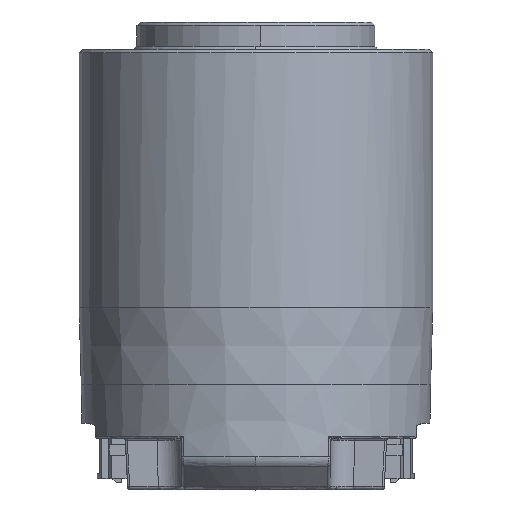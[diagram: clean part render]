
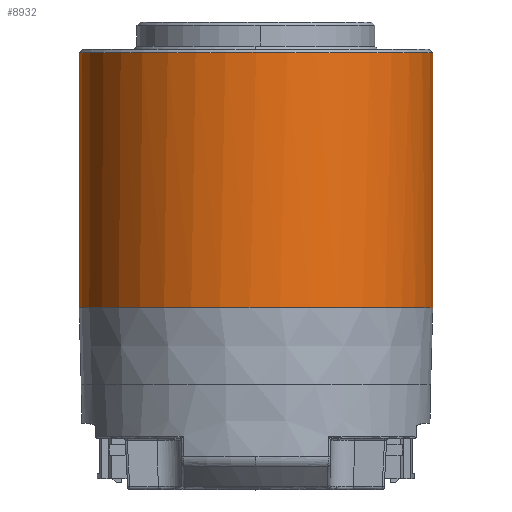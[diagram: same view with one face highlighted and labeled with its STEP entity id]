
A CAD part, top view. The second image highlights one B-rep face of the part: STEP entity #8932.
In plain terms, the highlighted cylindrical face has radius 26 mm (diameter 52 mm), a partial arc.
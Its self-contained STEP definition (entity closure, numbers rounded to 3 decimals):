
#2809 = CARTESIAN_POINT ( 'NONE',  ( 0.023, 76.759, -0.024 ) ) ;
#4881 = CIRCLE ( 'NONE', #45080, 26. ) ;
#8932 = ADVANCED_FACE ( 'NONE', ( #115786 ), #12874, .T. ) ;
#12874 = CYLINDRICAL_SURFACE ( 'NONE', #97651, 26. ) ;
#17250 = DIRECTION ( 'NONE',  ( 1., 0., 0. ) ) ;
#19760 = ORIENTED_EDGE ( 'NONE', *, *, #117411, .F. ) ;
#20437 = CARTESIAN_POINT ( 'NONE',  ( 26.023, 38.759, -0.024 ) ) ;
#21557 = CARTESIAN_POINT ( 'NONE',  ( 26.023, 76.759, -0.024 ) ) ;
#24930 = AXIS2_PLACEMENT_3D ( 'NONE', #140428, #62863, #17250 ) ;
#25643 = DIRECTION ( 'NONE',  ( 0., 1., 0. ) ) ;
#27078 = LINE ( 'NONE', #21557, #41299 ) ;
#27128 = DIRECTION ( 'NONE',  ( 0., 1., 0. ) ) ;
#27381 = VERTEX_POINT ( 'NONE', #136218 ) ;
#29473 = ORIENTED_EDGE ( 'NONE', *, *, #81232, .T. ) ;
#30537 = ORIENTED_EDGE ( 'NONE', *, *, #82274, .F. ) ;
#38558 = DIRECTION ( 'NONE',  ( 1., 0., 0. ) ) ;
#41299 = VECTOR ( 'NONE', #100778, 1000. ) ;
#44474 = VERTEX_POINT ( 'NONE', #60585 ) ;
#45080 = AXIS2_PLACEMENT_3D ( 'NONE', #73302, #130646, #38558 ) ;
#46880 = VERTEX_POINT ( 'NONE', #20437 ) ;
#48534 = CARTESIAN_POINT ( 'NONE',  ( 0.023, 76.259, -0.024 ) ) ;
#49940 = CARTESIAN_POINT ( 'NONE',  ( -25.977, 76.759, -0.024 ) ) ;
#52368 = DIRECTION ( 'NONE',  ( -1., 0., 0. ) ) ;
#53376 = EDGE_CURVE ( 'NONE', #76343, #46880, #4881, .T. ) ;
#60378 = EDGE_LOOP ( 'NONE', ( #97347, #107978, #19760, #30537, #29473 ) ) ;
#60481 = DIRECTION ( 'NONE',  ( -0.5, 0., -0.866 ) ) ;
#60585 = CARTESIAN_POINT ( 'NONE',  ( -25.977, 38.759, -0.024 ) ) ;
#62863 = DIRECTION ( 'NONE',  ( 0., 1., 0. ) ) ;
#73302 = CARTESIAN_POINT ( 'NONE',  ( 0.023, 38.759, -0.024 ) ) ;
#76343 = VERTEX_POINT ( 'NONE', #83578 ) ;
#81232 = EDGE_CURVE ( 'NONE', #44474, #76343, #105127, .T. ) ;
#82274 = EDGE_CURVE ( 'NONE', #44474, #83617, #111627, .T. ) ;
#83578 = CARTESIAN_POINT ( 'NONE',  ( 19.022, 38.759, 17.724 ) ) ;
#83617 = VERTEX_POINT ( 'NONE', #146908 ) ;
#97347 = ORIENTED_EDGE ( 'NONE', *, *, #53376, .T. ) ;
#97651 = AXIS2_PLACEMENT_3D ( 'NONE', #2809, #25643, #52368 ) ;
#100778 = DIRECTION ( 'NONE',  ( 0., 1., 0. ) ) ;
#105127 = CIRCLE ( 'NONE', #24930, 26. ) ;
#107978 = ORIENTED_EDGE ( 'NONE', *, *, #120607, .T. ) ;
#111627 = LINE ( 'NONE', #49940, #120584 ) ;
#115786 = FACE_OUTER_BOUND ( 'NONE', #60378, .T. ) ;
#116265 = DIRECTION ( 'NONE',  ( 0., 1., 0. ) ) ;
#117411 = EDGE_CURVE ( 'NONE', #83617, #27381, #127049, .T. ) ;
#120584 = VECTOR ( 'NONE', #116265, 1000. ) ;
#120607 = EDGE_CURVE ( 'NONE', #46880, #27381, #27078, .T. ) ;
#123975 = AXIS2_PLACEMENT_3D ( 'NONE', #48534, #27128, #60481 ) ;
#127049 = CIRCLE ( 'NONE', #123975, 26. ) ;
#130646 = DIRECTION ( 'NONE',  ( 0., 1., 0. ) ) ;
#136218 = CARTESIAN_POINT ( 'NONE',  ( 26.023, 76.259, -0.024 ) ) ;
#140428 = CARTESIAN_POINT ( 'NONE',  ( 0.023, 38.759, -0.024 ) ) ;
#146908 = CARTESIAN_POINT ( 'NONE',  ( -25.977, 76.259, -0.024 ) ) ;
